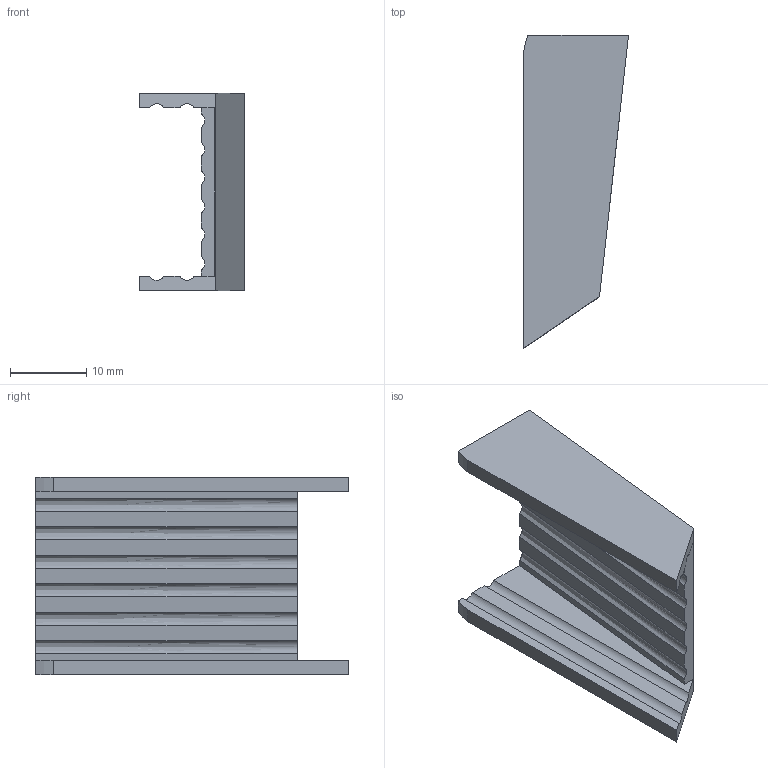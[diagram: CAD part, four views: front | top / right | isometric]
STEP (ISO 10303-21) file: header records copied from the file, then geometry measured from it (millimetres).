
FILE_DESCRIPTION(/* description */ (''),/* implementation_level */ '2;1');
FILE_NAME(/* name */ 'D:/Pew Pews/FGC-9_MkII_Stingray_Edition/Stingray Edition/.step files/3 - Buffer Tube and Stock/Stock/Stock Lower Color Inlay.step',/* time_stamp */ '2022-05-12T10:46:49-06:00',/* author */ (''),/* organization */ (''),/* preprocessor_version */ 'ST-DEVELOPER v18.1',/* originating_system */ 'Autodesk Translation Framework v10.10.0.1391',/* authorisation */ '');
FILE_SCHEMA (('AUTOMOTIVE_DESIGN { 1 0 10303 214 3 1 1 }'));
Length unit declared in the file: millimetre
Products named in the file (1): lower inset
Bounding box: 13.82 x 41.18 x 26 mm (x, y, z)
Volume: 2903 mm3; surface area: 3771.6 mm2
Topology: 1 solids, 1 shells, 33 faces, 93 edges, 62 vertices
Faces by surface type: plane 21, bspline 8, cylinder 4
Entity records: 1185 total; most frequent: CARTESIAN_POINT 313, ORIENTED_EDGE 186, DIRECTION 157, EDGE_CURVE 93, LINE 65, VECTOR 65, VERTEX_POINT 62, AXIS2_PLACEMENT_3D 46
